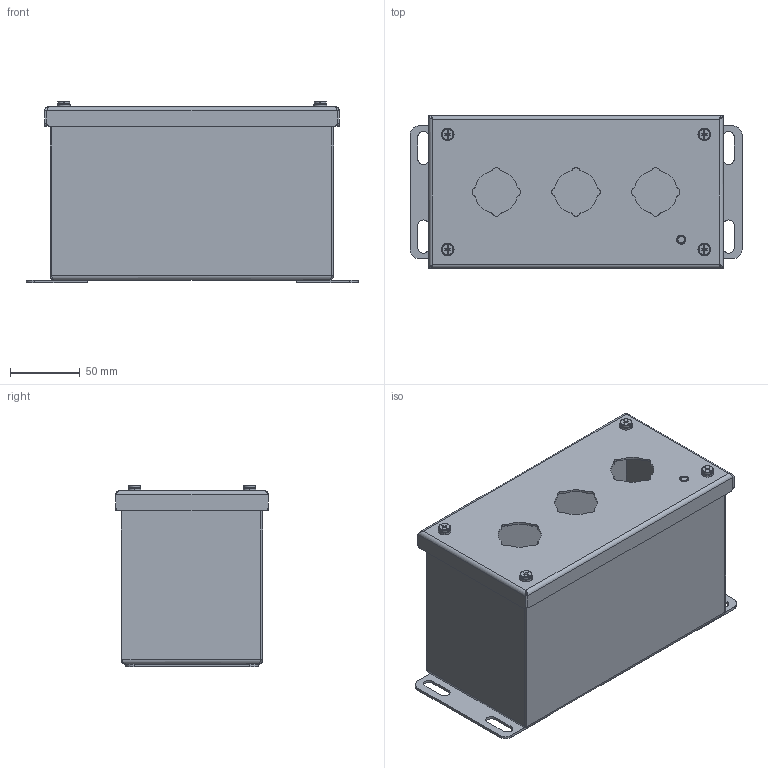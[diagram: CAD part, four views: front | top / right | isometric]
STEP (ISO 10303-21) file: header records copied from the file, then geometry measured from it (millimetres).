
FILE_DESCRIPTION((''),'2;1');
FILE_NAME('MODEL-394_ASM','2021-06-07T10:18:45',('mikek'),('SAGINAW CONTROL & ENGINEERING'),'CREO PARAMETRIC BY PTC INC, 2017260','CREO PARAMETRIC BY PTC INC, 2017260','');
FILE_SCHEMA(('AUTOMOTIVE_DESIGN { 1 0 10303 214 1 1 1 1 }'));
Length unit declared in the file: inch
Products named in the file (10): MODEL-394-BDY; MODEL-394-DR; 100097; 102197; 101966; 100012; 102599; 102534; MODEL-394-GSKT; MODEL-394_ASM
Assembly tree (16 placements, depth 2):
  MODEL-394_ASM
    MODEL-394-BDY
    MODEL-394-DR
    100097
    102197  x2
    101966
    100012
    102599  x4
    102534  x4
    MODEL-394-GSKT
Bounding box: 238.12 x 109.54 x 130.14 mm (x, y, z)
Volume: 215896.5 mm3; surface area: 283953.8 mm2
Topology: 19 solids, 19 shells, 759 faces, 1894 edges, 1116 vertices
Faces by surface type: cylinder 268, plane 267, bspline 108, torus 88, cone 28
Entity records: 22576 total; most frequent: CARTESIAN_POINT 5915, DIRECTION 2268, ORIENTED_EDGE 2176, EDGE_CURVE 1088, PRESENTATION_STYLE_ASSIGNMENT 1000, STYLED_ITEM 1000, CURVE_STYLE 924, AXIS2_PLACEMENT_3D 835
